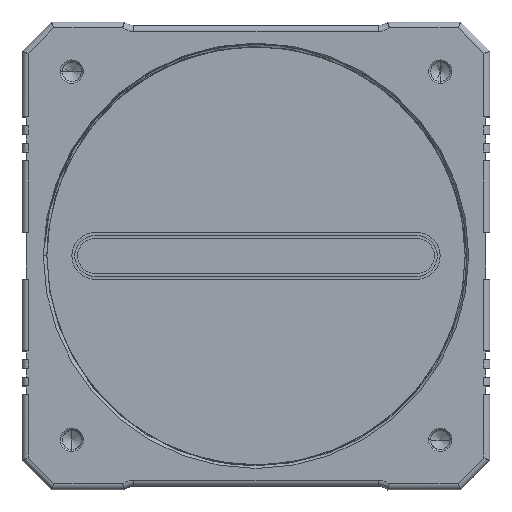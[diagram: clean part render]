
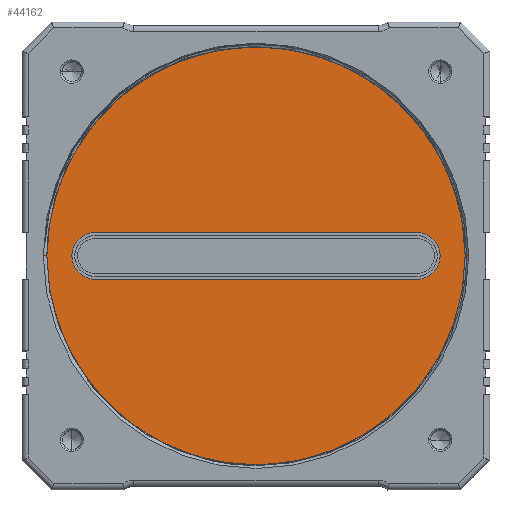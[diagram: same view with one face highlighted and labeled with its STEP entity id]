
A CAD part, top view. The second image highlights one B-rep face of the part: STEP entity #44162.
In plain terms, the highlighted planar face has unit normal (0, 0, 1).
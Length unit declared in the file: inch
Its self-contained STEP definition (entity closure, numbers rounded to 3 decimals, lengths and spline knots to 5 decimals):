
#38261=DIRECTION('',(1.,0.,0.));
#38262=VECTOR('',#38261,2.16535);
#38263=CARTESIAN_POINT('',(-1.08268,0.15748,
-0.01969));
#38264=LINE('',#38263,#38262);
#38265=CARTESIAN_POINT('',(0.,0.,-0.01969));
#38266=DIRECTION('',(0.,0.,-1.));
#38267=DIRECTION('',(1.,0.,0.));
#38268=AXIS2_PLACEMENT_3D('',#38265,#38266,#38267);
#38270=CARTESIAN_POINT('',(0.,0.,-0.01969));
#38271=DIRECTION('',(0.,0.,-1.));
#38272=DIRECTION('',(-1.,0.,0.));
#38273=AXIS2_PLACEMENT_3D('',#38270,#38271,#38272);
#38275=CARTESIAN_POINT('',(-1.08268,0.,-0.01969));
#38276=DIRECTION('',(0.,0.,1.));
#38277=DIRECTION('',(0.,1.,0.));
#38278=AXIS2_PLACEMENT_3D('',#38275,#38276,#38277);
#38280=CARTESIAN_POINT('',(-1.08268,0.,-0.01969));
#38281=DIRECTION('',(0.,0.,1.));
#38282=DIRECTION('',(-1.,0.,0.));
#38283=AXIS2_PLACEMENT_3D('',#38280,#38281,#38282);
#38285=CARTESIAN_POINT('',(1.08268,0.,-0.01969));
#38286=DIRECTION('',(0.,0.,1.));
#38287=DIRECTION('',(0.,-1.,0.));
#38288=AXIS2_PLACEMENT_3D('',#38285,#38286,#38287);
#38290=CARTESIAN_POINT('',(1.08268,0.,-0.01969));
#38291=DIRECTION('',(0.,0.,1.));
#38292=DIRECTION('',(1.,0.,0.));
#38293=AXIS2_PLACEMENT_3D('',#38290,#38291,#38292);
#42338=DIRECTION('',(-1.,0.,0.));
#42339=VECTOR('',#42338,2.16535);
#42340=CARTESIAN_POINT('',(1.08268,-0.15748,
-0.01969));
#42341=LINE('',#42340,#42339);
#43390=CARTESIAN_POINT('',(-1.08268,0.15748,
-0.01969));
#43391=CARTESIAN_POINT('',(-1.24016,0.,-0.01969));
#43392=VERTEX_POINT('',#43390);
#43393=VERTEX_POINT('',#43391);
#43394=CARTESIAN_POINT('',(-1.08268,-0.15748,
-0.01969));
#43395=VERTEX_POINT('',#43394);
#43396=CARTESIAN_POINT('',(1.43209,0.,-0.01969));
#43397=CARTESIAN_POINT('',(-1.43209,0.,-0.01969));
#43398=VERTEX_POINT('',#43396);
#43399=VERTEX_POINT('',#43397);
#43400=CARTESIAN_POINT('',(1.08268,-0.15748,
-0.01969));
#43401=VERTEX_POINT('',#43400);
#43402=CARTESIAN_POINT('',(1.24016,0.,-0.01969));
#43403=VERTEX_POINT('',#43402);
#43404=CARTESIAN_POINT('',(1.08268,0.15748,
-0.01969));
#43405=VERTEX_POINT('',#43404);
#44138=CARTESIAN_POINT('',(0.,0.,-0.01969));
#44139=DIRECTION('',(0.,0.,1.));
#44140=DIRECTION('',(1.,0.,0.));
#44141=AXIS2_PLACEMENT_3D('',#44138,#44139,#44140);
#44142=PLANE('',#44141);
#44144=ORIENTED_EDGE('',*,*,#44143,.T.);
#44146=ORIENTED_EDGE('',*,*,#44145,.T.);
#44147=EDGE_LOOP('',(#44144,#44146));
#44148=FACE_OUTER_BOUND('',#44147,.F.);
#44150=ORIENTED_EDGE('',*,*,#44149,.T.);
#44152=ORIENTED_EDGE('',*,*,#44151,.T.);
#44154=ORIENTED_EDGE('',*,*,#44153,.F.);
#44156=ORIENTED_EDGE('',*,*,#44155,.T.);
#44158=ORIENTED_EDGE('',*,*,#44157,.T.);
#44159=ORIENTED_EDGE('',*,*,#44127,.F.);
#44160=EDGE_LOOP('',(#44150,#44152,#44154,#44156,#44158,#44159));
#44161=FACE_BOUND('',#44160,.F.);
#44162=ADVANCED_FACE('',(#44148,#44161),#44142,.T.);
#38269=CIRCLE('',#38268,1.43209);
#38274=CIRCLE('',#38273,1.43209);
#38279=CIRCLE('',#38278,0.15748);
#38284=CIRCLE('',#38283,0.15748);
#38289=CIRCLE('',#38288,0.15748);
#38294=CIRCLE('',#38293,0.15748);
#44127=EDGE_CURVE('',#43392,#43405,#38264,.T.);
#44143=EDGE_CURVE('',#43398,#43399,#38269,.T.);
#44145=EDGE_CURVE('',#43399,#43398,#38274,.T.);
#44149=EDGE_CURVE('',#43392,#43393,#38279,.T.);
#44151=EDGE_CURVE('',#43393,#43395,#38284,.T.);
#44153=EDGE_CURVE('',#43401,#43395,#42341,.T.);
#44155=EDGE_CURVE('',#43401,#43403,#38289,.T.);
#44157=EDGE_CURVE('',#43403,#43405,#38294,.T.);
